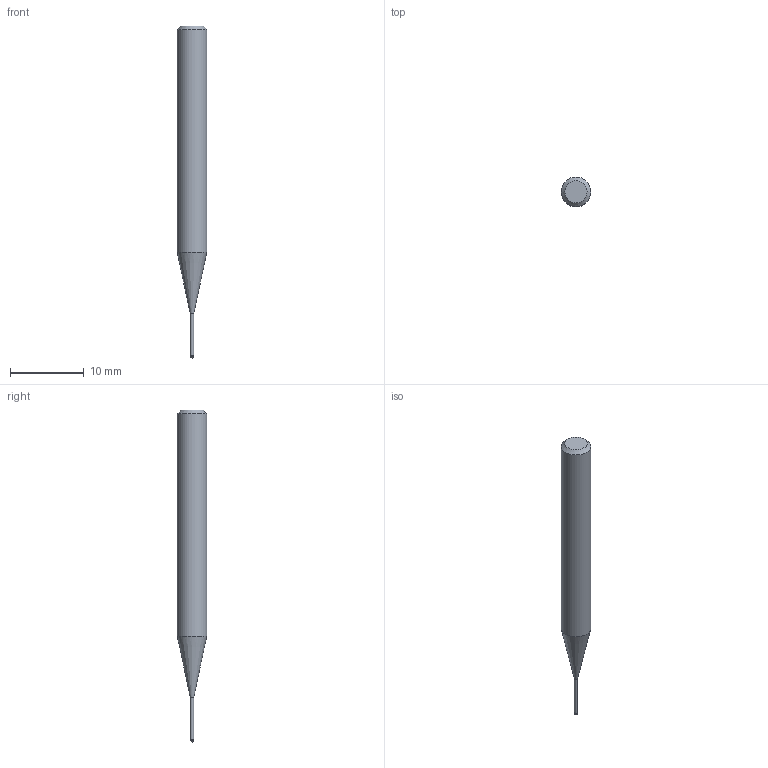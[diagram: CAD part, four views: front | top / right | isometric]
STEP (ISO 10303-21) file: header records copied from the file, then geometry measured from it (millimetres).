
FILE_DESCRIPTION((''),'2;1');
FILE_NAME('C:\Users\nsx150\AppData\Local\Temp\Mastercam 2021\ARV7HD45SN\TEMP.step','2023-06-13T16:33:37',(''),(''),'STEP Write','Mastercam 2021 ... CNC Software, Inc.','');
FILE_SCHEMA(('AUTOMOTIVE_DESIGN'));
Length unit declared in the file: millimetre
Products named in the file (1): None
Bounding box: 4 x 4 x 45 mm (x, y, z)
Volume: 424.4 mm3; surface area: 462.7 mm2
Topology: 2 solids, 2 shells, 9 faces, 14 edges, 8 vertices
Faces by surface type: plane 3, cylinder 3, cone 2, sphere 1
Full cylindrical faces by diameter (mm): 0.46 x1, 0.5 x1, 4 x1
Entity records: 211 total; most frequent: DIRECTION 36, CARTESIAN_POINT 25, AXIS2_PLACEMENT_3D 18, ORIENTED_EDGE 14, EDGE_LOOP 14, STYLED_ITEM 12, ADVANCED_FACE 9, FACE_BOUND 8
